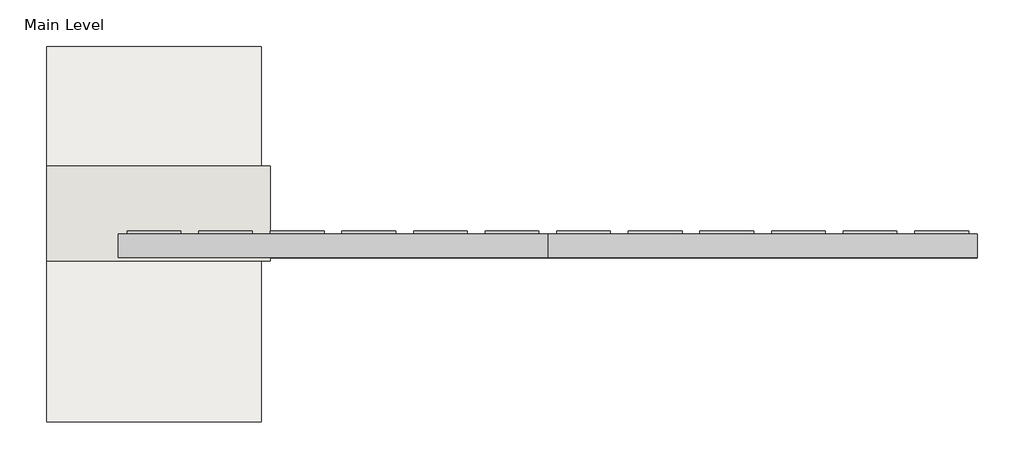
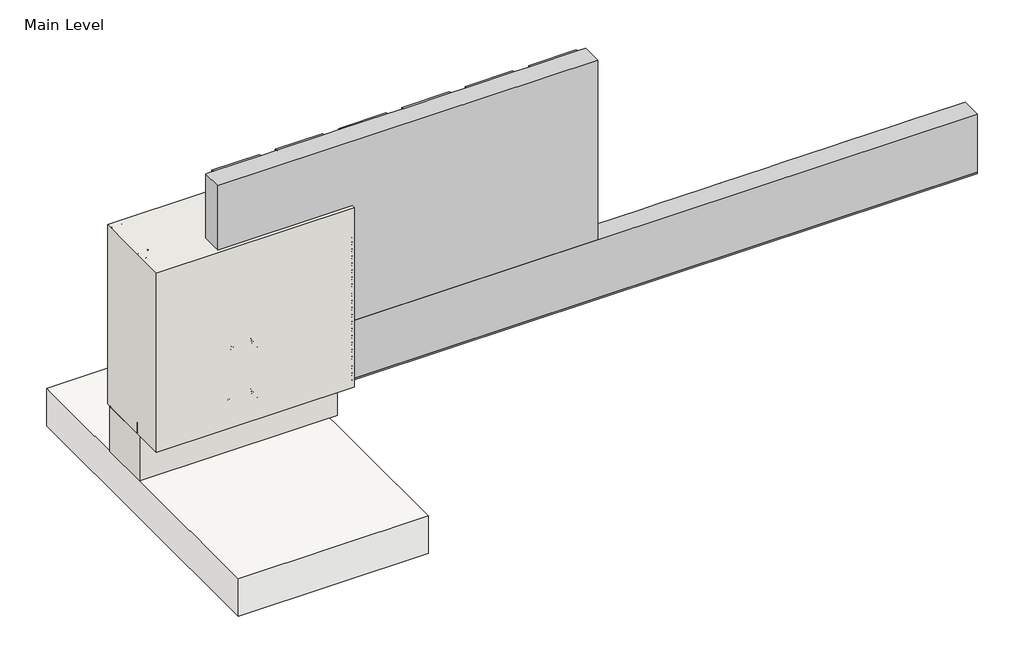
# One storey, incomplete: 18 proxies, 2 walls, 1 slab.
"""IFC4 building model written with IfcOpenShell, lengths in millimetres."""

from ifc_helpers import new_model, si_unit, frame, origin, origin_with_axes, place, context, project, spatial, polyline, outline, extrude, transform, mapped, element, save
from components import generic_models_31547c53, generic_models_0bbfdc8f, generic_models_1e1ad44f, generic_models_7dd17a53, generic_models_441de798, generic_models_9d0e7a2a, generic_models_8c792c9c, generic_models_03ec6e0e, proxy_215900e5, proxy_691c8b69, wood_blocking_45ac4bf3

model = new_model("IFC4")

# Units and contexts
model_context = context("Model", 3, world=origin())
ifc_project = project(units=[si_unit("LENGTHUNIT", "METRE", prefix="MILLI")], contexts=[model_context])

# Site, building, storey
site = spatial("IfcSite", under=ifc_project)
building = spatial("IfcBuilding", under=site)
storey = spatial("IfcBuildingStorey", under=building, Name="Main Level", Elevation=0.0)

# Proxies
placement = place(None, origin())
generic_models_shape = generic_models_31547c53(model_context)
element("IfcBuildingElementProxy", 1, Name="Durabond Generic Model Sealant Vent : Durabond Generic Model Sealant Vent", ObjectType="Durabond Generic Model Sealant Vent : Durabond Generic Model Sealant Vent", at=placement, inside=storey, context=model_context, shape_type="MappedRepresentation", body=[
    mapped(generic_models_shape, transform((26865.4101773, 546.8432813, 8.5594788), x_axis=(1.0, 0.0, 0.0), y_axis=(0.0, 0.08715574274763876, -0.9961946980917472), z_axis=(0.0, 0.9961946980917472, 0.08715574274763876))),
])
generic_models_2_shape = generic_models_0bbfdc8f(model_context)
generic_models_3_shape = generic_models_1e1ad44f(model_context)
generic_models_4_shape = generic_models_7dd17a53(model_context)
generic_models_5_shape = generic_models_441de798(model_context)
element("IfcBuildingElementProxy", 2, Name="CRAi Generic Model Mesh Piece Face Based : CRAi Generic Model Mesh Piece Face Based", ObjectType="CRAi Generic Model Mesh Piece Face Based : CRAi Generic Model Mesh Piece Face Based", at=placement, inside=storey, context=model_context, shape_type="MappedRepresentation", body=[
    mapped(generic_models_2_shape, transform((26933.6726773, 541.9066297, 261.6963215), x_axis=(-1.0, 0.0, 0.0), y_axis=(0.0, 0.0, -1.0), z_axis=(0.0, -1.0, 0.0))),
    mapped(generic_models_3_shape, transform((26933.6726773, 541.9066297, 261.6963215), x_axis=(-1.0, 0.0, 0.0), y_axis=(0.0, 0.0, -1.0), z_axis=(0.0, -1.0, 0.0))),
    mapped(generic_models_4_shape, transform((26933.6726773, 541.9066297, 261.6963215), x_axis=(-1.0, 0.0, 0.0), y_axis=(0.0, 0.0, -1.0), z_axis=(0.0, -1.0, 0.0))),
    mapped(generic_models_5_shape, transform((26933.6726773, 541.9066297, 261.6963215), x_axis=(-1.0, 0.0, 0.0), y_axis=(0.0, 0.0, -1.0), z_axis=(0.0, -1.0, 0.0))),
])
generic_models_6_shape = generic_models_9d0e7a2a(model_context)
element("IfcBuildingElementProxy", 3, Name="CRAi Generic Model Metal Stud Array : CRAi Generic Model Metal Stud Array", ObjectType="CRAi Generic Model Metal Stud Array : CRAi Generic Model Metal Stud Array", at=placement, inside=storey, context=model_context, shape_type="MappedRepresentation", body=[
    mapped(generic_models_6_shape, transform((26666.9726773, 719.7066297, 6.35), x_axis=(-1.0, 0.0, 0.0), y_axis=(0.0, -1.0, 0.0), z_axis=(0.0, 0.0, 1.0))),
])
generic_models_7_shape = generic_models_8c792c9c(model_context)
element("IfcBuildingElementProxy", 4, Name="Durabond Generic Model Screw w Standard Wall Plate : Durabond Generic Model Screw w Standard Wall Plate", ObjectType="Durabond Generic Model Screw w Standard Wall Plate : Durabond Generic Model Screw w Standard Wall Plate", at=placement, inside=storey, context=model_context, shape_type="MappedRepresentation", body=[
    mapped(generic_models_7_shape, transform((26781.2726773, 544.2878797, 85.242643), x_axis=(1.0, 0.0, 0.0), y_axis=(0.0, 0.0, 1.0), z_axis=(0.0, -1.0, 0.0))),
])
element("IfcBuildingElementProxy", 5, Name="Durabond Generic Model Screw w Standard Wall Plate : Durabond Generic Model Screw w Standard Wall Plate", ObjectType="Durabond Generic Model Screw w Standard Wall Plate : Durabond Generic Model Screw w Standard Wall Plate", at=placement, inside=storey, context=model_context, shape_type="MappedRepresentation", body=[
    mapped(generic_models_7_shape, transform((26781.2726773, 544.2878797, 256.692643), x_axis=(1.0, 0.0, 0.0), y_axis=(0.0, 0.0, 1.0), z_axis=(0.0, -1.0, 0.0))),
])
element("IfcBuildingElementProxy", 6, Name="Durabond Generic Model Screw w Standard Wall Plate : Durabond Generic Model Screw w Standard Wall Plate", ObjectType="Durabond Generic Model Screw w Standard Wall Plate : Durabond Generic Model Screw w Standard Wall Plate", at=placement, inside=storey, context=model_context, shape_type="MappedRepresentation", body=[
    mapped(generic_models_7_shape, transform((26703.4851773, 547.4628797, 85.242643), x_axis=(1.0, 0.0, 0.0), y_axis=(0.0, 0.0, 1.0), z_axis=(0.0, -1.0, 0.0))),
])
element("IfcBuildingElementProxy", 7, Name="Durabond Generic Model Screw w Standard Wall Plate : Durabond Generic Model Screw w Standard Wall Plate", ObjectType="Durabond Generic Model Screw w Standard Wall Plate : Durabond Generic Model Screw w Standard Wall Plate", at=placement, inside=storey, context=model_context, shape_type="MappedRepresentation", body=[
    mapped(generic_models_7_shape, transform((26716.1851773, 547.4628797, 256.692643), x_axis=(1.0, 0.0, 0.0), y_axis=(0.0, 0.0, 1.0), z_axis=(0.0, -1.0, 0.0))),
])
generic_models_8_shape = generic_models_03ec6e0e(model_context)
element("IfcBuildingElementProxy", 8, Name="CRAi Generic Model Drywall Screw : CRAi Generic Model Drywall Screw", ObjectType="CRAi Generic Model Drywall Screw : CRAi Generic Model Drywall Screw", at=placement, inside=storey, context=model_context, shape_type="MappedRepresentation", body=[
    mapped(generic_models_8_shape, transform((26482.8226773, 627.6316297, 25.4), x_axis=(1.0, 0.0, 0.0), y_axis=(0.0, 0.0, 1.0), z_axis=(0.0, -1.0, 0.0))),
])
element("IfcBuildingElementProxy", 9, Name="CRAi Generic Model Drywall Screw : CRAi Generic Model Drywall Screw", ObjectType="CRAi Generic Model Drywall Screw : CRAi Generic Model Drywall Screw", at=placement, inside=storey, context=model_context, shape_type="MappedRepresentation", body=[
    mapped(generic_models_8_shape, transform((26482.8226773, 627.6316297, 215.9), x_axis=(1.0, 0.0, 0.0), y_axis=(0.0, 0.0, 1.0), z_axis=(0.0, -1.0, 0.0))),
])
element("IfcBuildingElementProxy", 10, Name="CRAi Generic Model Drywall Screw : CRAi Generic Model Drywall Screw", ObjectType="CRAi Generic Model Drywall Screw : CRAi Generic Model Drywall Screw", at=placement, inside=storey, context=model_context, shape_type="MappedRepresentation", body=[
    mapped(generic_models_8_shape, transform((26482.8226773, 627.6316297, 406.4), x_axis=(1.0, 0.0, 0.0), y_axis=(0.0, 0.0, 1.0), z_axis=(0.0, -1.0, 0.0))),
])
element("IfcBuildingElementProxy", 11, Name="CRAi Generic Model Drywall Screw : CRAi Generic Model Drywall Screw", ObjectType="CRAi Generic Model Drywall Screw : CRAi Generic Model Drywall Screw", at=placement, inside=storey, context=model_context, shape_type="MappedRepresentation", body=[
    mapped(generic_models_8_shape, transform((26482.8226773, 627.6316297, 596.9), x_axis=(1.0, 0.0, 0.0), y_axis=(0.0, 0.0, 1.0), z_axis=(0.0, -1.0, 0.0))),
])
element("IfcBuildingElementProxy", 12, Name="CRAi Generic Model Drywall Screw : CRAi Generic Model Drywall Screw", ObjectType="CRAi Generic Model Drywall Screw : CRAi Generic Model Drywall Screw", at=placement, inside=storey, context=model_context, shape_type="MappedRepresentation", body=[
    mapped(generic_models_8_shape, transform((26851.1226773, 627.6316297, 25.4), x_axis=(1.0, 0.0, 0.0), y_axis=(0.0, 0.0, 1.0), z_axis=(0.0, -1.0, 0.0))),
])
element("IfcBuildingElementProxy", 13, Name="CRAi Generic Model Drywall Screw : CRAi Generic Model Drywall Screw", ObjectType="CRAi Generic Model Drywall Screw : CRAi Generic Model Drywall Screw", at=placement, inside=storey, context=model_context, shape_type="MappedRepresentation", body=[
    mapped(generic_models_8_shape, transform((26851.1226773, 627.6316297, 215.9), x_axis=(1.0, 0.0, 0.0), y_axis=(0.0, 0.0, 1.0), z_axis=(0.0, -1.0, 0.0))),
])
element("IfcBuildingElementProxy", 14, Name="CRAi Generic Model Drywall Screw : CRAi Generic Model Drywall Screw", ObjectType="CRAi Generic Model Drywall Screw : CRAi Generic Model Drywall Screw", at=placement, inside=storey, context=model_context, shape_type="MappedRepresentation", body=[
    mapped(generic_models_8_shape, transform((26851.1226773, 627.6316297, 406.4), x_axis=(1.0, 0.0, 0.0), y_axis=(0.0, 0.0, 1.0), z_axis=(0.0, -1.0, 0.0))),
])
element("IfcBuildingElementProxy", 15, Name="CRAi Generic Model Drywall Screw : CRAi Generic Model Drywall Screw", ObjectType="CRAi Generic Model Drywall Screw : CRAi Generic Model Drywall Screw", at=placement, inside=storey, context=model_context, shape_type="MappedRepresentation", body=[
    mapped(generic_models_8_shape, transform((26851.1226773, 627.6316297, 596.9), x_axis=(1.0, 0.0, 0.0), y_axis=(0.0, 0.0, 1.0), z_axis=(0.0, -1.0, 0.0))),
])
proxy_shape = proxy_215900e5(model_context)
element("IfcBuildingElementProxy", 16, Name="Durabond Generic Model Insulite Select Extruded Insulation Board : 3\"", ObjectType="Durabond Generic Model Insulite Select Extruded Insulation Board : 3\"", at=placement, inside=storey, context=model_context, shape_type="MappedRepresentation", body=[
    mapped(proxy_shape, transform((27276.5726773, 624.4566297, 523.392643), x_axis=(1.0, 0.0, 0.0), y_axis=(0.0, 0.0, 1.0), z_axis=(0.0, -1.0, 0.0))),
])
proxy_2_shape = proxy_691c8b69(model_context)
element("IfcBuildingElementProxy", 17, Name="Durabond Generic Model Insulite Select Extruded Vent Board : 3\"", ObjectType="Durabond Generic Model Insulite Select Extruded Vent Board : 3\"", at=placement, inside=storey, context=model_context, shape_type="MappedRepresentation", body=[
    mapped(proxy_2_shape, transform((27886.1726773, 624.4566297, 116.992643), x_axis=(1.0, 0.0, 0.0), y_axis=(0.0, 0.0, 1.0), z_axis=(0.0, -1.0, 0.0))),
])
wood_blocking_shape = wood_blocking_45ac4bf3(model_context)
element("IfcBuildingElementProxy", 18, Name="CRAi Generic Model Line Based Metal Framing Track : Wood Blocking", ObjectType="CRAi Generic Model Line Based Metal Framing Track : Wood Blocking", at=placement, inside=storey, context=model_context, shape_type="MappedRepresentation", body=[
    mapped(wood_blocking_shape, transform((26463.7726773, 643.5066297, 0.0), x_axis=(1.0, 0.0, 0.0), y_axis=(0.0, 1.0, 0.0), z_axis=(0.0, 0.0, 1.0))),
])

# Slab
element("IfcSlab", 19, ObjectType="CRAi Concrete Floor - 5\"", at=placement, inside=storey, context=model_context, shape_type="SweptSolid", body=[
    extrude(outline(polyline([(27073.3726773, 81.5316297), (26463.7726773, 81.5316297), (26463.7726773, 1148.3316297), (27073.3726773, 1148.3316297), (27073.3726773, 81.5316297)])), frame((0.0, 0.0, -279.4), z_axis=(0.0, 0.0, 1.0), x_axis=(1.0, 0.0, 0.0)), (0.0, 0.0, 1.0), 127.0),
])

# Walls
element("IfcWall", 20, ObjectType="189mm (7.5”) EIFS Field Applied on Mtl. Stud Layer - 50mm Grooved Insulation Board Metal Stud Wall(AirStop) 2", at=placement, inside=storey, context=model_context, shape_type="SweptSolid", body=[
    extrude(outline(polyline([(27098.7726773, 538.7316297), (26463.7726773, 538.7316297), (26463.7726773, 808.6066297), (27098.7726773, 808.6066297), (27098.7726773, 538.7316297)])), origin_with_axes(), (0.0, 0.0, 1.0), 609.6),
])
element("IfcWall", 21, ObjectType="Durabond 6\" Concrete Wall", at=placement, inside=storey, context=model_context, shape_type="SweptSolid", body=[
    extrude(outline(polyline([(27098.7726773, 630.8066297), (26463.7726773, 630.8066297), (26463.7726773, 795.9066297), (27098.7726773, 795.9066297), (27098.7726773, 630.8066297)])), frame((0.0, 0.0, -152.4), z_axis=(0.0, 0.0, 1.0), x_axis=(1.0, 0.0, 0.0)), (0.0, 0.0, 1.0), 152.4),
])

save(model, "model.ifc")
